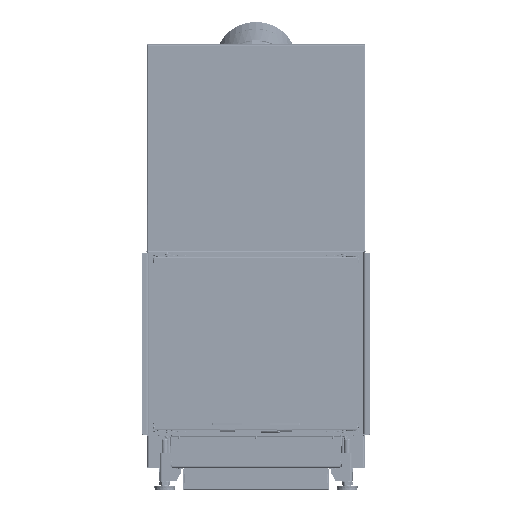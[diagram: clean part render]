
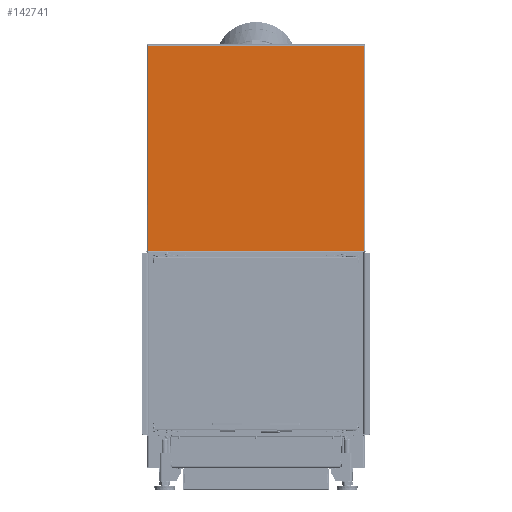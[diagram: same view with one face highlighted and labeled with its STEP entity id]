
A CAD part, front view. The second image highlights one B-rep face of the part: STEP entity #142741.
In plain terms, the highlighted planar face has unit normal (0, -1, 0).
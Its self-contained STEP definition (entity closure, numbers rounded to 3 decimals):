
#8282=PLANE('',#151732);
#17157=FACE_OUTER_BOUND('',#25021,.T.);
#25021=EDGE_LOOP('',(#102827,#102828,#102829,#102830,#102831,#102832));
#35091=LINE('',#215615,#49151);
#35096=LINE('',#215703,#49156);
#35104=LINE('',#215922,#49164);
#35105=LINE('',#215924,#49165);
#35106=LINE('',#215928,#49166);
#35109=LINE('',#215934,#49169);
#49151=VECTOR('',#169955,10.);
#49156=VECTOR('',#169972,10.);
#49164=VECTOR('',#169994,10.);
#49165=VECTOR('',#169997,10.);
#49166=VECTOR('',#170004,10.);
#49169=VECTOR('',#170013,10.);
#63337=VERTEX_POINT('',#215596);
#63338=VERTEX_POINT('',#215607);
#63344=VERTEX_POINT('',#215696);
#63346=VERTEX_POINT('',#215702);
#63355=VERTEX_POINT('',#215913);
#63356=VERTEX_POINT('',#215920);
#78115=EDGE_CURVE('',#63338,#63337,#35091,.T.);
#78127=EDGE_CURVE('',#63346,#63337,#35096,.T.);
#78151=EDGE_CURVE('',#63355,#63356,#35104,.T.);
#78152=EDGE_CURVE('',#63344,#63346,#35105,.T.);
#78154=EDGE_CURVE('',#63356,#63344,#35106,.T.);
#78158=EDGE_CURVE('',#63338,#63355,#35109,.T.);
#102827=ORIENTED_EDGE('',*,*,#78152,.T.);
#102828=ORIENTED_EDGE('',*,*,#78127,.T.);
#102829=ORIENTED_EDGE('',*,*,#78115,.F.);
#102830=ORIENTED_EDGE('',*,*,#78158,.T.);
#102831=ORIENTED_EDGE('',*,*,#78151,.T.);
#102832=ORIENTED_EDGE('',*,*,#78154,.T.);
#142741=ADVANCED_FACE('',(#17157),#8282,.T.);
#151732=AXIS2_PLACEMENT_3D('',#215933,#170011,#170012);
#169955=DIRECTION('',(1.,0.,0.));
#169972=DIRECTION('',(0.,0.,1.));
#169994=DIRECTION('',(0.,0.,-1.));
#169997=DIRECTION('',(0.,0.,1.));
#170004=DIRECTION('',(1.,0.,0.));
#170011=DIRECTION('center_axis',(0.,-1.,0.));
#170012=DIRECTION('ref_axis',(1.,0.,0.));
#170013=DIRECTION('',(0.,0.,-1.));
#215596=CARTESIAN_POINT('',(265.75,-328.496,1042.25));
#215607=CARTESIAN_POINT('',(-265.75,-328.496,1042.25));
#215615=CARTESIAN_POINT('',(0.,-328.496,1042.25));
#215696=CARTESIAN_POINT('',(265.75,-328.496,535.25));
#215702=CARTESIAN_POINT('',(265.75,-328.496,1041.57));
#215703=CARTESIAN_POINT('',(265.75,-328.496,683.846));
#215913=CARTESIAN_POINT('',(-265.75,-328.496,1041.57));
#215920=CARTESIAN_POINT('',(-265.75,-328.496,535.25));
#215922=CARTESIAN_POINT('',(-265.75,-328.496,937.346));
#215924=CARTESIAN_POINT('',(265.75,-328.496,683.846));
#215928=CARTESIAN_POINT('',(134.25,-328.496,535.25));
#215933=CARTESIAN_POINT('Origin',(0.,-328.496,
832.441));
#215934=CARTESIAN_POINT('',(-265.75,-328.496,937.346));
